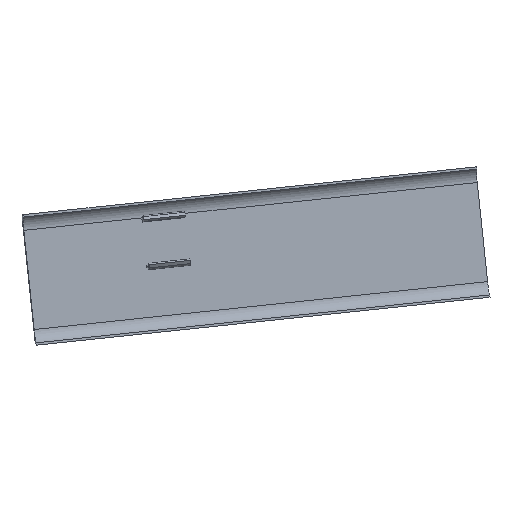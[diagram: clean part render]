
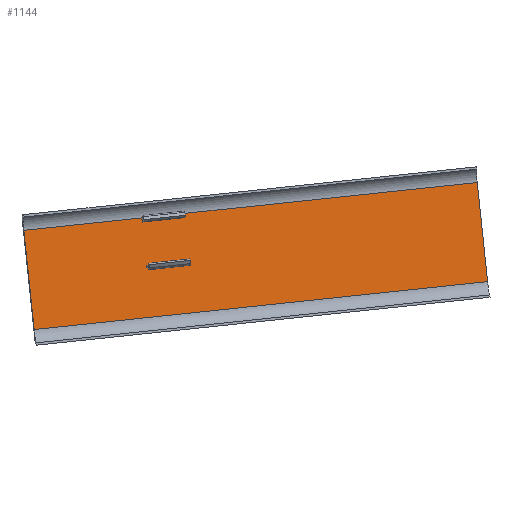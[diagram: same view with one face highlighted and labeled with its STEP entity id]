
A CAD part, left-side view. The second image highlights one B-rep face of the part: STEP entity #1144.
In plain terms, the highlighted planar face has unit normal (-0.995, -0.104, 0).
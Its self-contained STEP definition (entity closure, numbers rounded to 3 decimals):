
#12 = VECTOR ( 'NONE', #776, 1000. ) ;
#13 = VECTOR ( 'NONE', #792, 1000. ) ;
#20 = FACE_BOUND ( 'NONE', #245, .T. ) ;
#51 = FACE_BOUND ( 'NONE', #212, .T. ) ;
#67 = VECTOR ( 'NONE', #848, 1000. ) ;
#71 = LINE ( 'NONE', #852, #94 ) ;
#78 = LINE ( 'NONE', #806, #79 ) ;
#79 = VECTOR ( 'NONE', #805, 1000. ) ;
#84 = LINE ( 'NONE', #1136, #155 ) ;
#93 = LINE ( 'NONE', #851, #67 ) ;
#94 = VECTOR ( 'NONE', #849, 1000. ) ;
#102 = LINE ( 'NONE', #1093, #106 ) ;
#106 = VECTOR ( 'NONE', #1094, 1000. ) ;
#125 = LINE ( 'NONE', #840, #13 ) ;
#139 = VECTOR ( 'NONE', #769, 1000. ) ;
#151 = LINE ( 'NONE', #771, #329 ) ;
#155 = VECTOR ( 'NONE', #1134, 1000. ) ;
#162 = LINE ( 'NONE', #1030, #139 ) ;
#166 = LINE ( 'NONE', #733, #168 ) ;
#167 = LINE ( 'NONE', #772, #12 ) ;
#168 = VECTOR ( 'NONE', #734, 1000. ) ;
#172 = LINE ( 'NONE', #1086, #397 ) ;
#177 = VECTOR ( 'NONE', #830, 1000. ) ;
#179 = LINE ( 'NONE', #831, #177 ) ;
#190 = ORIENTED_EDGE ( 'NONE', *, *, #568, .T. ) ;
#191 = ORIENTED_EDGE ( 'NONE', *, *, #495, .T. ) ;
#208 = ORIENTED_EDGE ( 'NONE', *, *, #577, .T. ) ;
#212 = EDGE_LOOP ( 'NONE', ( #268, #289, #420, #281 ) ) ;
#226 = ORIENTED_EDGE ( 'NONE', *, *, #491, .F. ) ;
#245 = EDGE_LOOP ( 'NONE', ( #226, #619, #262, #208 ) ) ;
#262 = ORIENTED_EDGE ( 'NONE', *, *, #550, .T. ) ;
#264 = EDGE_LOOP ( 'NONE', ( #191, #399, #291, #190 ) ) ;
#268 = ORIENTED_EDGE ( 'NONE', *, *, #483, .F. ) ;
#281 = ORIENTED_EDGE ( 'NONE', *, *, #586, .T. ) ;
#289 = ORIENTED_EDGE ( 'NONE', *, *, #520, .F. ) ;
#291 = ORIENTED_EDGE ( 'NONE', *, *, #471, .F. ) ;
#329 = VECTOR ( 'NONE', #735, 1000. ) ;
#380 = FACE_OUTER_BOUND ( 'NONE', #264, .T. ) ;
#397 = VECTOR ( 'NONE', #1083, 1000. ) ;
#399 = ORIENTED_EDGE ( 'NONE', *, *, #452, .F. ) ;
#420 = ORIENTED_EDGE ( 'NONE', *, *, #509, .T. ) ;
#452 = EDGE_CURVE ( 'NONE', #828, #1138, #162, .T. ) ;
#471 = EDGE_CURVE ( 'NONE', #662, #828, #151, .T. ) ;
#483 = EDGE_CURVE ( 'NONE', #657, #686, #166, .T. ) ;
#491 = EDGE_CURVE ( 'NONE', #684, #655, #84, .T. ) ;
#495 = EDGE_CURVE ( 'NONE', #651, #1138, #167, .T. ) ;
#506 = EDGE_CURVE ( 'NONE', #648, #684, #93, .T. ) ;
#509 = EDGE_CURVE ( 'NONE', #692, #671, #71, .T. ) ;
#520 = EDGE_CURVE ( 'NONE', #692, #657, #102, .T. ) ;
#529 = AXIS2_PLACEMENT_3D ( 'NONE', #928, #935, #934 ) ;
#550 = EDGE_CURVE ( 'NONE', #648, #652, #179, .T. ) ;
#568 = EDGE_CURVE ( 'NONE', #662, #651, #125, .T. ) ;
#577 = EDGE_CURVE ( 'NONE', #652, #655, #78, .T. ) ;
#586 = EDGE_CURVE ( 'NONE', #671, #686, #172, .T. ) ;
#619 = ORIENTED_EDGE ( 'NONE', *, *, #506, .F. ) ;
#648 = VERTEX_POINT ( 'NONE', #1070 ) ;
#651 = VERTEX_POINT ( 'NONE', #1074 ) ;
#652 = VERTEX_POINT ( 'NONE', #1075 ) ;
#655 = VERTEX_POINT ( 'NONE', #1073 ) ;
#657 = VERTEX_POINT ( 'NONE', #1022 ) ;
#662 = VERTEX_POINT ( 'NONE', #1019 ) ;
#671 = VERTEX_POINT ( 'NONE', #1021 ) ;
#684 = VERTEX_POINT ( 'NONE', #899 ) ;
#686 = VERTEX_POINT ( 'NONE', #907 ) ;
#692 = VERTEX_POINT ( 'NONE', #911 ) ;
#733 = CARTESIAN_POINT ( 'NONE',  ( -13.052, -23.839, 5.231 ) ) ;
#734 = DIRECTION ( 'NONE',  ( -0.104, 0.989, -0.105 ) ) ;
#735 = DIRECTION ( 'NONE',  ( 0.104, -0.989, 0.105 ) ) ;
#769 = DIRECTION ( 'NONE',  ( 0.011, -0.104, -0.995 ) ) ;
#771 = CARTESIAN_POINT ( 'NONE',  ( -15.144, -3.937, 3.337 ) ) ;
#772 = CARTESIAN_POINT ( 'NONE',  ( -15.008, -5.232, -9.054 ) ) ;
#776 = DIRECTION ( 'NONE',  ( 0.104, -0.989, 0.105 ) ) ;
#792 = DIRECTION ( 'NONE',  ( 0.011, -0.104, -0.995 ) ) ;
#805 = DIRECTION ( 'NONE',  ( -0.011, 0.104, 0.995 ) ) ;
#806 = CARTESIAN_POINT ( 'NONE',  ( -13.53, -19.295, -1.043 ) ) ;
#828 = VERTEX_POINT ( 'NONE', #923 ) ;
#830 = DIRECTION ( 'NONE',  ( -0.104, 0.989, -0.105 ) ) ;
#831 = CARTESIAN_POINT ( 'NONE',  ( -12.986, -24.469, -0.799 ) ) ;
#840 = CARTESIAN_POINT ( 'NONE',  ( -15.008, -5.232, -9.054 ) ) ;
#848 = DIRECTION ( 'NONE',  ( -0.011, 0.104, 0.995 ) ) ;
#849 = DIRECTION ( 'NONE',  ( -0.104, 0.989, -0.105 ) ) ;
#851 = CARTESIAN_POINT ( 'NONE',  ( -12.989, -24.438, -0.499 ) ) ;
#852 = CARTESIAN_POINT ( 'NONE',  ( -13.049, -23.871, 4.924 ) ) ;
#899 = CARTESIAN_POINT ( 'NONE',  ( -12.989, -24.438, -0.499 ) ) ;
#907 = CARTESIAN_POINT ( 'NONE',  ( -13.593, -18.696, 4.688 ) ) ;
#911 = CARTESIAN_POINT ( 'NONE',  ( -13.049, -23.871, 4.924 ) ) ;
#920 = CARTESIAN_POINT ( 'NONE',  ( -9.051, -61.906, -3.065 ) ) ;
#923 = CARTESIAN_POINT ( 'NONE',  ( -9.187, -60.611, 9.326 ) ) ;
#928 = CARTESIAN_POINT ( 'NONE',  ( -15.008, -5.232, -9.054 ) ) ;
#929 = PLANE ( 'NONE',  #529 ) ;
#934 = DIRECTION ( 'NONE',  ( -0.104, 0.989, -0.105 ) ) ;
#935 = DIRECTION ( 'NONE',  ( -0.995, -0.105, 0. ) ) ;
#1019 = CARTESIAN_POINT ( 'NONE',  ( -15.144, -3.937, 3.337 ) ) ;
#1021 = CARTESIAN_POINT ( 'NONE',  ( -13.589, -18.728, 4.38 ) ) ;
#1022 = CARTESIAN_POINT ( 'NONE',  ( -13.052, -23.839, 5.231 ) ) ;
#1030 = CARTESIAN_POINT ( 'NONE',  ( -9.051, -61.906, -3.065 ) ) ;
#1070 = CARTESIAN_POINT ( 'NONE',  ( -12.986, -24.469, -0.799 ) ) ;
#1073 = CARTESIAN_POINT ( 'NONE',  ( -13.53, -19.295, -1.043 ) ) ;
#1074 = CARTESIAN_POINT ( 'NONE',  ( -15.008, -5.232, -9.054 ) ) ;
#1075 = CARTESIAN_POINT ( 'NONE',  ( -13.526, -19.326, -1.343 ) ) ;
#1083 = DIRECTION ( 'NONE',  ( -0.011, 0.104, 0.995 ) ) ;
#1086 = CARTESIAN_POINT ( 'NONE',  ( -13.589, -18.728, 4.38 ) ) ;
#1093 = CARTESIAN_POINT ( 'NONE',  ( -13.049, -23.871, 4.924 ) ) ;
#1094 = DIRECTION ( 'NONE',  ( -0.011, 0.104, 0.995 ) ) ;
#1134 = DIRECTION ( 'NONE',  ( -0.104, 0.989, -0.105 ) ) ;
#1136 = CARTESIAN_POINT ( 'NONE',  ( -12.989, -24.438, -0.499 ) ) ;
#1138 = VERTEX_POINT ( 'NONE', #920 ) ;
#1144 = ADVANCED_FACE ( 'NONE', ( #20, #380, #51 ), #929, .T. ) ;
